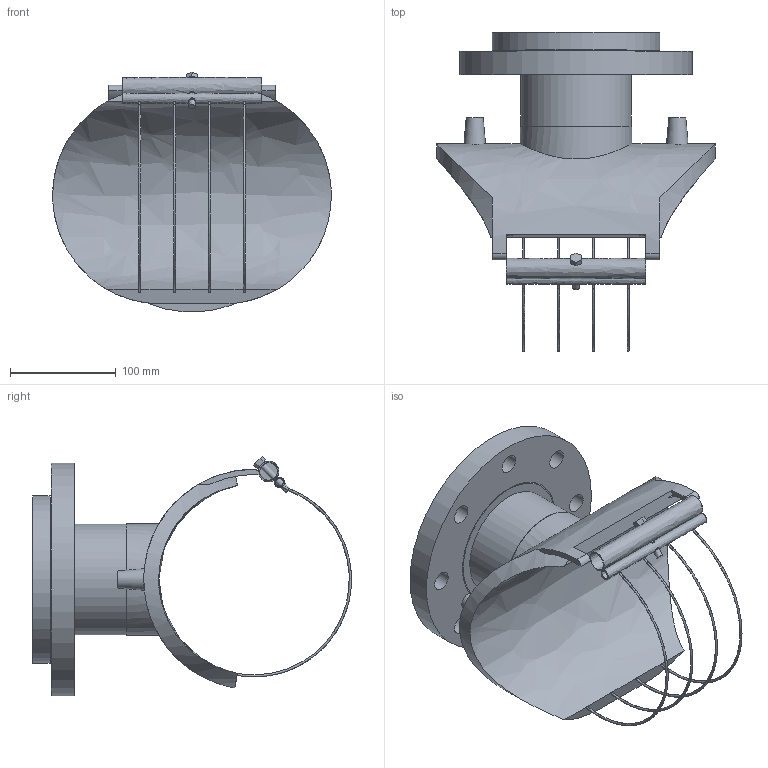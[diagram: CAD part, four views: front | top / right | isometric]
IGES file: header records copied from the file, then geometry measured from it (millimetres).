
Global section: file name: 4959X4180100T; native system: Autodesk Inventor 2019; preprocessor: unknown; author: KIM; date: 20220428.113720; units: millimetre
Bounding box: 263 x 301 x 226.31 mm (x, y, z)
Volume: 1923659.1 mm3; surface area: 344746 mm2
Topology: 2 solids, 2 shells, 78 faces, 239 edges, 166 vertices
Faces by surface type: bspline 78
